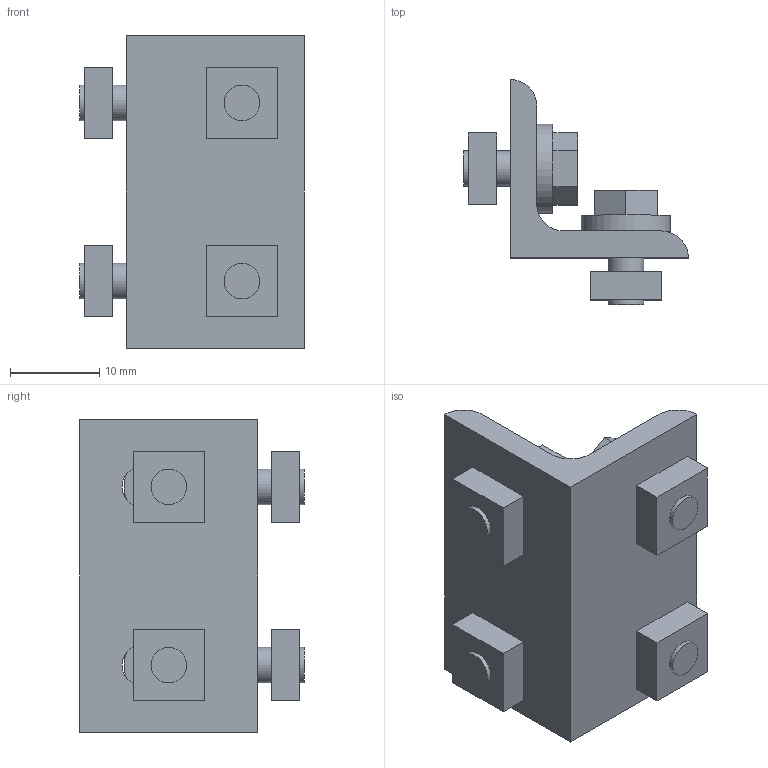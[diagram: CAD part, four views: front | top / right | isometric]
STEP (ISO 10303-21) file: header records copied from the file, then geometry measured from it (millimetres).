
FILE_DESCRIPTION((''),'2;1');
FILE_NAME('C:\Documents and Settings\古川典政\My Documents\Inventor\HP用\MasterData\BRACKET\M4\ABL-2035-4.stp','2008-07-30T13:55:22',('ÐT'),(''),'Autodesk Inventor 2008','Autodesk Inventor 2008','');
FILE_SCHEMA(('AUTOMOTIVE_DESIGN { 1 0 10303 214 1 1 1 1 }'));
Length unit declared in the file: millimetre
Products named in the file (10): ABL-2035-4; ABL-2035-41; ABL-2035-42; ABL-2035-43; ABL-2035-44; ABL-2035-45; ABL-2035-46; ABL-2035-47; ABL-2035-48; ABL-2035-49
Assembly tree (9 placements, depth 2):
  ABL-2035-4
    ABL-2035-41
    ABL-2035-42
    ABL-2035-43
    ABL-2035-44
    ABL-2035-45
    ABL-2035-46
    ABL-2035-47
    ABL-2035-48
    ABL-2035-49
Bounding box: 25.2 x 25.2 x 35 mm (x, y, z)
Volume: 5642.6 mm3; surface area: 5616.3 mm2
Topology: 9 solids, 9 shells, 105 faces, 235 edges, 160 vertices
Faces by surface type: plane 78, cylinder 21, bspline 6
Full cylindrical faces by diameter (mm): 4 x4, 4.3 x4, 10 x4
Entity records: 3169 total; most frequent: CARTESIAN_POINT 613, DIRECTION 493, ORIENTED_EDGE 414, EDGE_CURVE 207, AXIS2_PLACEMENT_3D 170, VECTOR 153, LINE 153, EDGE_LOOP 151
